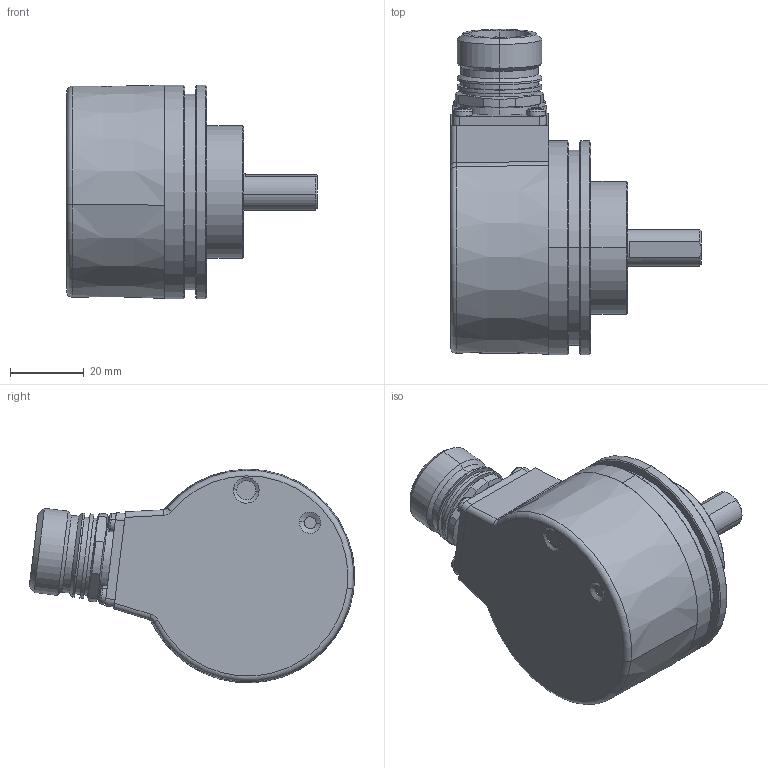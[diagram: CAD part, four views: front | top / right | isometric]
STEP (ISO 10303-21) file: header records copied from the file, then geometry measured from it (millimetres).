
FILE_DESCRIPTION (( 'STEP AP214' ), '1' );
FILE_NAME ('5814SIL.12X4.XXXX.STEP', '2010-07-22T06:30:40', ( 'admin' ), ( 'Fritz Kübler GmbH' ), 'SwSTEP 2.0', 'SolidWorks 2009', '' );
FILE_SCHEMA (( 'AUTOMOTIVE_DESIGN' ));
Length unit declared in the file: millimetre
Products named in the file (1): 5814SIL.12X4.XXXX
Bounding box: 68 x 88.28 x 58 mm (x, y, z)
Surface area: 22389.9 mm2 (no closed solid volume)
Topology: 0 solids, 32 shells, 318 faces, 835 edges, 530 vertices
Faces by surface type: cylinder 133, plane 86, cone 43, sphere 32, torus 20, bspline 4
Entity records: 13713 total; most frequent: CARTESIAN_POINT 2174, DIRECTION 1907, ORIENTED_EDGE 1460, EDGE_CURVE 811, AXIS2_PLACEMENT_3D 805, VERTEX_POINT 530, CIRCLE 490, EDGE_LOOP 365
